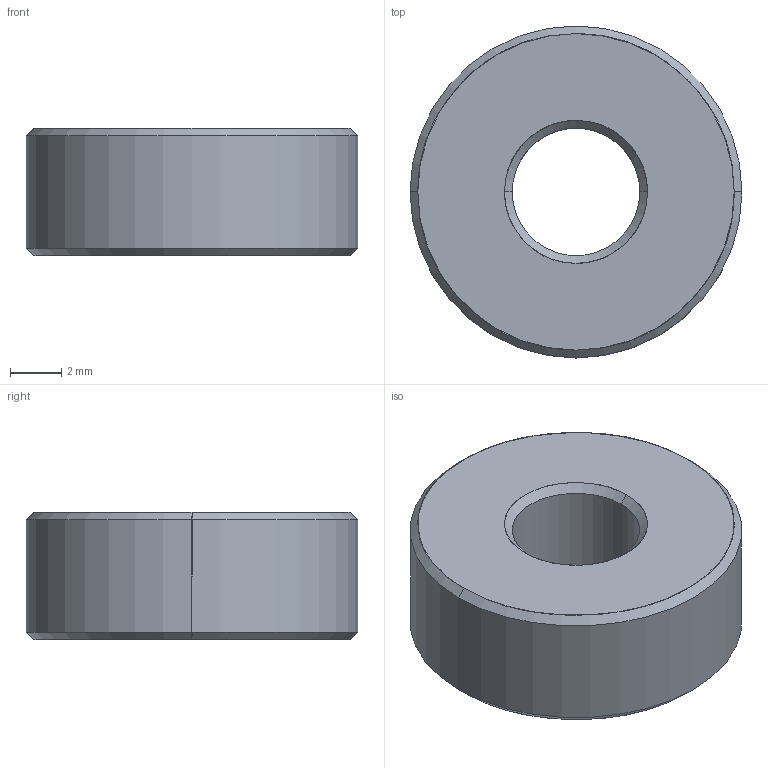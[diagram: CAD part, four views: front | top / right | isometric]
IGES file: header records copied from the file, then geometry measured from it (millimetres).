
Global section: file name: E:\UnigraphicsGraphicData\MISUMI_PRESS-PARTS\IGES\3d_t8_00123_r00.igs; native system: NX V5.0; preprocessor: UGS NX IGES V5.0; author: MISUMI; date: 20110105.163347; units: millimetre
Bounding box: 13 x 13 x 5 mm (x, y, z)
Surface area: 484.4 mm2 (no closed solid volume)
Topology: 0 solids, 0 shells, 14 faces, 80 edges, 80 vertices
Faces by surface type: bspline 14
